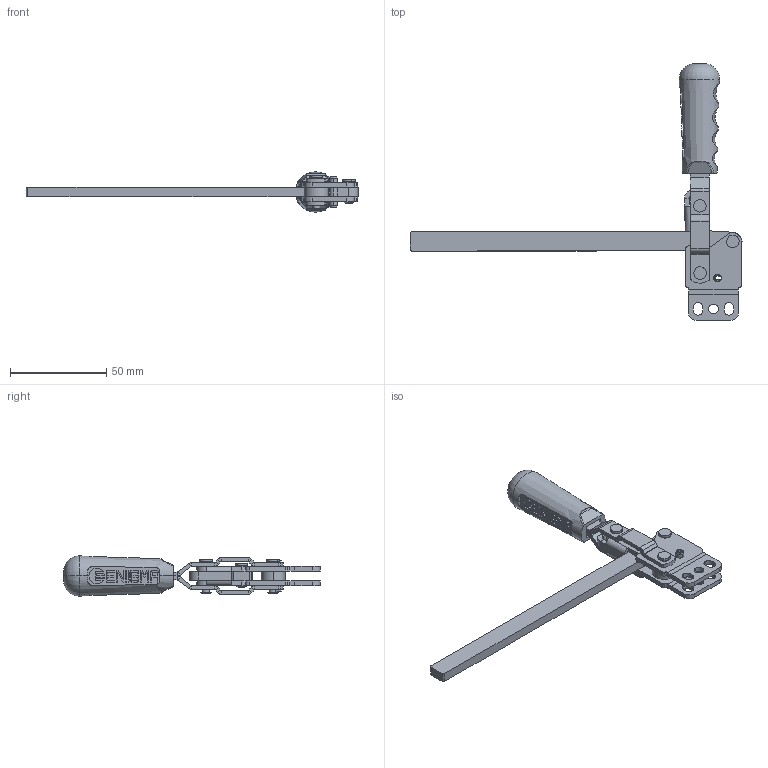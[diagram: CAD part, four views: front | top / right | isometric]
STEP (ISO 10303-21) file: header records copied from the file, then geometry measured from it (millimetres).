
FILE_DESCRIPTION (( 'STEP AP214' ), '1' );
FILE_NAME ('1101-D-L.STEP', '2022-05-30T09:51:58', ( '' ), ( '' ), 'SwSTEP 2.0', 'SolidWorks 2020', '' );
FILE_SCHEMA (( 'AUTOMOTIVE_DESIGN' ));
Length unit declared in the file: millimetre
Products named in the file (13): 4x16_YARIKLI_P嵱; 1101 Y Gövde_2022; C55_Yeni_Tutamak; Ø12,5xØ7,5x5_YÜZÜK; Aynalama1101 HAREKET KOLU_2022; 1101 HAREKET KOLU_2022; 1101 MAFSAL_2022; 4x12_5_PERﾇﾝN; 1101 LAMA BASKI KOLU; 1101-D-L; 7x4x10_BURÇ; Aynalama1101 Y Gövde_2022; 4x17_PERﾇﾝN
Assembly tree (14 placements, depth 2):
  1101-D-L
    1101 Y Gövde_2022
    1101 HAREKET KOLU_2022
    1101 MAFSAL_2022
    4x12_5_PERﾇﾝN  x2
    4x17_PERﾇﾝN  x2
    7x4x10_BURÇ
    Ø12,5xØ7,5x5_YÜZÜK
    Aynalama1101 Y Gövde_2022
    Aynalama1101 HAREKET KOLU_2022
    4x16_YARIKLI_P嵱
    C55_Yeni_Tutamak
    1101 LAMA BASKI KOLU
Bounding box: 172.75 x 133.48 x 20.98 mm (x, y, z)
Volume: 33518.2 mm3; surface area: 25536.1 mm2
Topology: 14 solids, 14 shells, 815 faces, 2037 edges, 1284 vertices
Faces by surface type: plane 528, cylinder 210, torus 34, bspline 27, cone 16
Entity records: 23861 total; most frequent: CARTESIAN_POINT 6244, ORIENTED_EDGE 3514, DIRECTION 3497, EDGE_CURVE 1757, VECTOR 1211, LINE 1211, AXIS2_PLACEMENT_3D 1143, VERTEX_POINT 1108
